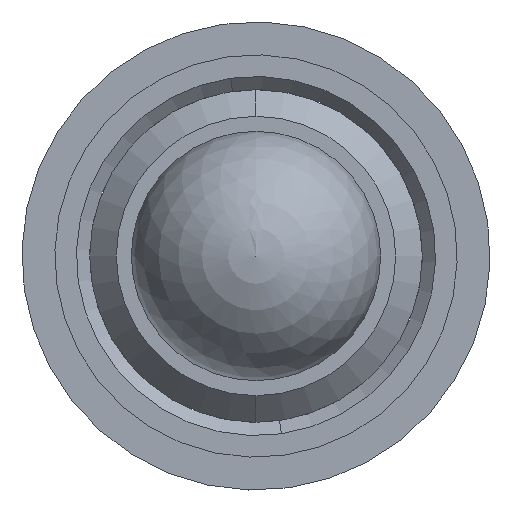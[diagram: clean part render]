
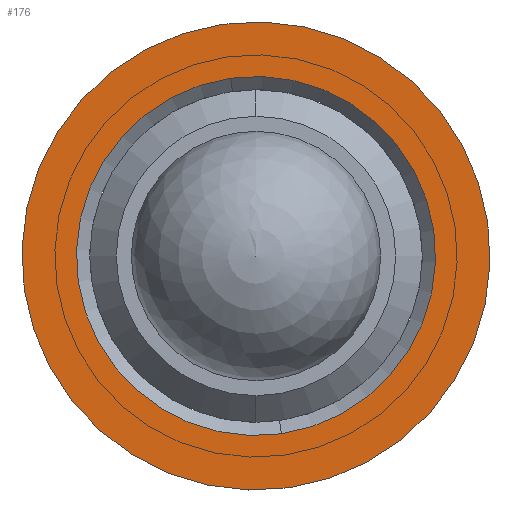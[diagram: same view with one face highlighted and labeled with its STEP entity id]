
A CAD part, left-side view. The second image highlights one B-rep face of the part: STEP entity #176.
In plain terms, the highlighted planar face has unit normal (-1, 0, 0).
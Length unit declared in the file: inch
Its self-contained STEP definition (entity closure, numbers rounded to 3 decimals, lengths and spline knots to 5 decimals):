
#40 = EDGE_CURVE ( 'NONE', #1047, #163, #284, .T. ) ;
#95 = CIRCLE ( 'NONE', #606, 0.176 ) ;
#163 = VERTEX_POINT ( 'NONE', #1135 ) ;
#176 = ADVANCED_FACE ( 'NONE', ( #845, #575 ), #1144, .F. ) ;
#199 = DIRECTION ( 'NONE',  ( 1., 0., 0. ) ) ;
#214 = EDGE_CURVE ( 'NONE', #242, #402, #348, .T. ) ;
#242 = VERTEX_POINT ( 'NONE', #1334 ) ;
#284 = CIRCLE ( 'NONE', #318, 0.135 ) ;
#306 = DIRECTION ( 'NONE',  ( 0., -0.141, -0.99 ) ) ;
#317 = DIRECTION ( 'NONE',  ( 1., 0., 0. ) ) ;
#318 = AXIS2_PLACEMENT_3D ( 'NONE', #320, #317, #306 ) ;
#320 = CARTESIAN_POINT ( 'NONE',  ( 0.50216, 1.58129, 2.13659 ) ) ;
#348 = CIRCLE ( 'NONE', #1270, 0.176 ) ;
#402 = VERTEX_POINT ( 'NONE', #1404 ) ;
#455 = CARTESIAN_POINT ( 'NONE',  ( 0.50216, 1.58129, 2.13659 ) ) ;
#575 = FACE_OUTER_BOUND ( 'NONE', #1475, .T. ) ;
#591 = AXIS2_PLACEMENT_3D ( 'NONE', #455, #199, #1042 ) ;
#606 = AXIS2_PLACEMENT_3D ( 'NONE', #1379, #1403, #1426 ) ;
#621 = ORIENTED_EDGE ( 'NONE', *, *, #1034, .T. ) ;
#744 = DIRECTION ( 'NONE',  ( 0., 0.141, 0.99 ) ) ;
#775 = DIRECTION ( 'NONE',  ( -1., 0., 0. ) ) ;
#845 = FACE_BOUND ( 'NONE', #1380, .T. ) ;
#1029 = ORIENTED_EDGE ( 'NONE', *, *, #1335, .T. ) ;
#1034 = EDGE_CURVE ( 'NONE', #402, #242, #95, .T. ) ;
#1042 = DIRECTION ( 'NONE',  ( 0., -0.141, -0.99 ) ) ;
#1047 = VERTEX_POINT ( 'NONE', #1368 ) ;
#1127 = ORIENTED_EDGE ( 'NONE', *, *, #40, .T. ) ;
#1135 = CARTESIAN_POINT ( 'NONE',  ( 0.50216, 1.60038, 2.27023 ) ) ;
#1144 = PLANE ( 'NONE',  #591 ) ;
#1184 = CIRCLE ( 'NONE', #1406, 0.135 ) ;
#1222 = DIRECTION ( 'NONE',  ( 0., -0.141, -0.99 ) ) ;
#1226 = DIRECTION ( 'NONE',  ( 1., 0., 0. ) ) ;
#1270 = AXIS2_PLACEMENT_3D ( 'NONE', #1512, #775, #744 ) ;
#1328 = CARTESIAN_POINT ( 'NONE',  ( 0.50216, 1.58129, 2.13659 ) ) ;
#1334 = CARTESIAN_POINT ( 'NONE',  ( 0.50216, 1.55642, 1.96236 ) ) ;
#1335 = EDGE_CURVE ( 'NONE', #163, #1047, #1184, .T. ) ;
#1365 = ORIENTED_EDGE ( 'NONE', *, *, #214, .T. ) ;
#1368 = CARTESIAN_POINT ( 'NONE',  ( 0.50216, 1.56221, 2.00295 ) ) ;
#1379 = CARTESIAN_POINT ( 'NONE',  ( 0.50216, 1.58129, 2.13659 ) ) ;
#1380 = EDGE_LOOP ( 'NONE', ( #1029, #1127 ) ) ;
#1403 = DIRECTION ( 'NONE',  ( -1., 0., 0. ) ) ;
#1404 = CARTESIAN_POINT ( 'NONE',  ( 0.50216, 1.60617, 2.31082 ) ) ;
#1406 = AXIS2_PLACEMENT_3D ( 'NONE', #1328, #1226, #1222 ) ;
#1426 = DIRECTION ( 'NONE',  ( 0., 0.141, 0.99 ) ) ;
#1475 = EDGE_LOOP ( 'NONE', ( #621, #1365 ) ) ;
#1512 = CARTESIAN_POINT ( 'NONE',  ( 0.50216, 1.58129, 2.13659 ) ) ;
